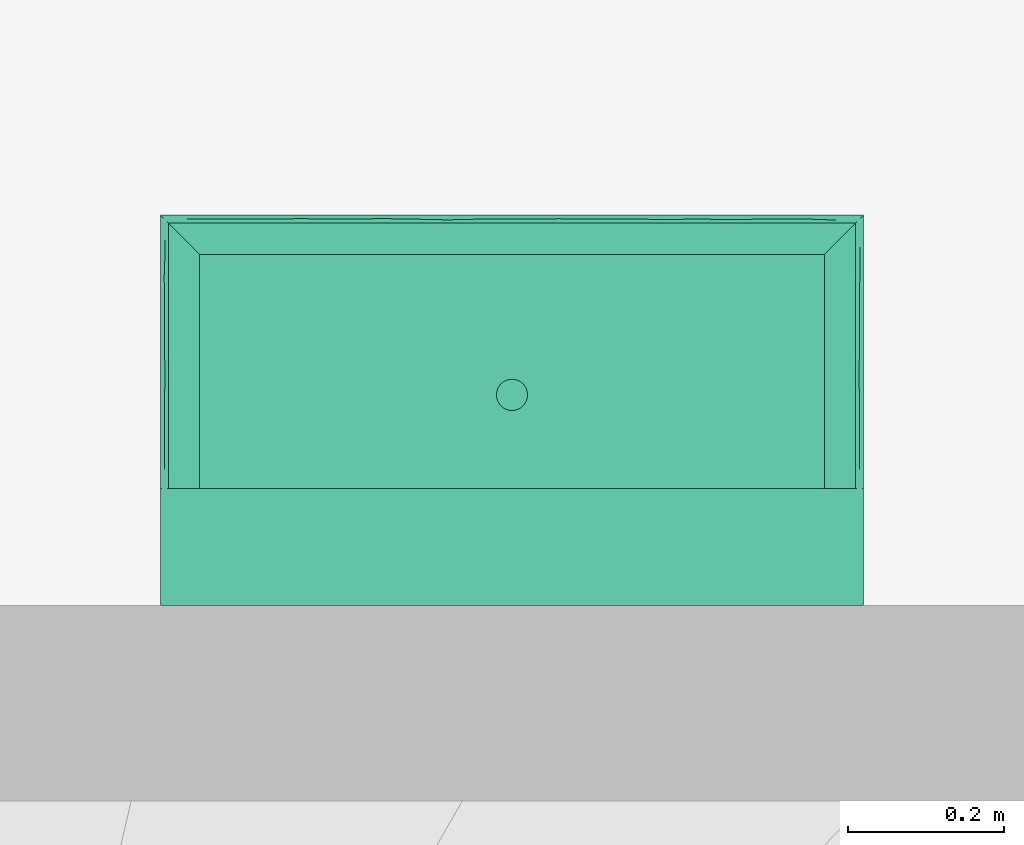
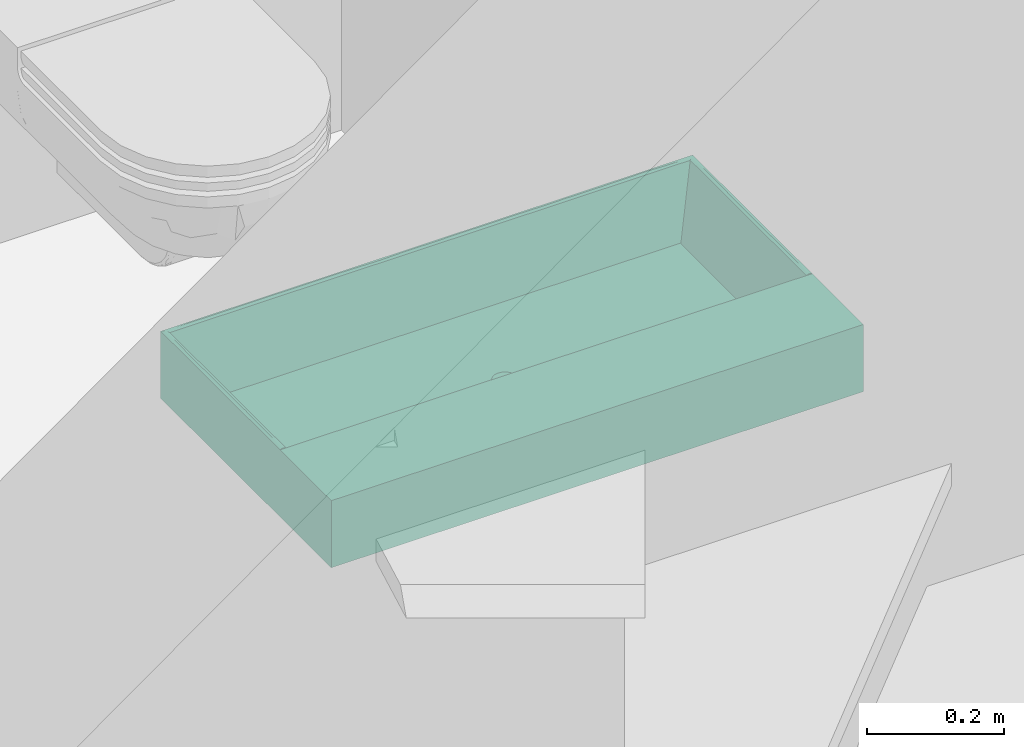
# One storey, part 16 of 18: 1 flow terminal.
"""IFC2X3 building model written with IfcOpenShell, lengths in metres."""

from ifc_helpers import new_model, entity, si_unit, converted_unit, derived_unit, direction, frame, frame_2d, origin, place, context, subcontext, project, spatial, rectangle, circle, extrude, faceted_brep, source, transform, mapped, material, material_list, type_object, type_shapes, element, save


model = new_model("IFC2X3")

# Units and contexts
model_context = context("Model", 3, precision=1e-05, world=origin(), true_north=direction((6.123233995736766e-17, 1.0)))
body_context = subcontext(model_context, "Body", "Model", "MODEL_VIEW")
ifc_project = project(units=[si_unit("LENGTHUNIT", "METRE"), si_unit("AREAUNIT", "SQUARE_METRE"), si_unit("VOLUMEUNIT", "CUBIC_METRE"), si_unit("POWERUNIT", "WATT"), derived_unit("USERDEFINED", [(si_unit("MASSUNIT", "GRAM", prefix="KILO"), 1), (si_unit("TIMEUNIT", "SECOND"), -3)]), derived_unit("THERMALRESISTANCEUNIT", [(si_unit("MASSUNIT", "GRAM", prefix="KILO"), -1), (si_unit("TIMEUNIT", "SECOND"), 3), (si_unit("THERMODYNAMICTEMPERATUREUNIT", "KELVIN"), 1)]), derived_unit("USERDEFINED", [(si_unit("MASSUNIT", "GRAM", prefix="KILO"), 1), (si_unit("TIMEUNIT", "SECOND"), -2), (si_unit("THERMODYNAMICTEMPERATUREUNIT", "KELVIN"), -1)]), derived_unit("THERMALTRANSMITTANCEUNIT", [(si_unit("MASSUNIT", "GRAM", prefix="KILO"), 1), (si_unit("TIMEUNIT", "SECOND"), -3), (si_unit("THERMODYNAMICTEMPERATUREUNIT", "KELVIN"), -1)]), converted_unit("PLANEANGLEUNIT", "DEGREE", entity("IfcPlaneAngleMeasure", 0.017453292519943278), si_unit("PLANEANGLEUNIT", "RADIAN"), dimensions=[0, 0, 0, 0, 0, 0, 0]), derived_unit("MOMENTOFINERTIAUNIT", [(si_unit("LENGTHUNIT", "METRE"), 4)])], contexts=[model_context])

# Site, building, storey, space
site_placement = place(None, origin())
site = spatial("IfcSite", under=ifc_project, at=site_placement, Name="Default", CompositionType="ELEMENT")
building_placement = place(site_placement, origin())
building = spatial("IfcBuilding", under=site, at=building_placement, CompositionType="ELEMENT")
storey_placement = place(building_placement, frame((0.0, 0.0, 2.6)))
storey = spatial("IfcBuildingStorey", under=building, at=storey_placement, Name="Erdgeschoss", CompositionType="ELEMENT", Elevation=2.6)
space_placement = place(storey_placement, origin())
space = spatial("IfcSpace", under=storey, at=space_placement, Name="16", CompositionType="ELEMENT", InteriorOrExteriorSpace="INTERNAL")

# Flow terminal
ifc_material_1 = material(Name="Metall - Edelstahl satiniert")
ifc_material_2 = material(Name="Keramik - weiß 255_255_255")
ifc_material_list = material_list([ifc_material_1, ifc_material_2])
distribution_element_type = type_object("IfcDistributionElementType", Name="Waschbecken 08:900 x 500", material=ifc_material_list)
shared_shape = source(origin(), body_context, "Body", "SolidModel", [
    extrude(circle(Radius=0.02, at=frame_2d((0.0, -2.9609648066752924e-17), x_axis=(1.0, 0.0))), frame((0.12289206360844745, 0.029999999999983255, 0.009999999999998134)), (0.0, 0.0, 1.0), 0.005000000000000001),
    extrude(rectangle(XDim=0.8000000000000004, YDim=0.3000000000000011, at=frame_2d((2.7755575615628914e-17, 0.0), x_axis=(1.0, 0.0))), frame((0.12289206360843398, 0.0, 0.0), z_axis=(0.0, 0.0, 1.0), x_axis=(-1.0, 0.0, 0.0)), (0.0, 0.0, 1.0), 0.01),
    faceted_brep([(-0.3271079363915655, -0.19999999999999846, 0.0), (-0.3271079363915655, -0.19999999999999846, 0.12000000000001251), (-0.3271079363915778, -0.1478653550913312, 0.12000000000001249), (-0.3271079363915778, -0.0957307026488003, 0.1200000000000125), (-0.3271079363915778, -0.04359605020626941, 0.1200000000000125), (-0.3271079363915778, 0.008538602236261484, 0.12000000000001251), (-0.3271079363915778, 0.05320197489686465, 0.1200000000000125), (-0.32710793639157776, 0.09786534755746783, 0.1200000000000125), (-0.327107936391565, 0.1500000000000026, 0.12000000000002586), (-0.3271079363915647, 0.3000000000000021, 0.12000000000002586), (-0.3271079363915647, 0.3000000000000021, 0.0), (0.5728920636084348, 0.30000000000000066, 0.0), (0.5728920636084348, 0.30000000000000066, 0.12000000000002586), (0.5728920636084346, 0.15000000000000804, 0.1200000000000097), (0.5728920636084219, 0.0978653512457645, 0.1200000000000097), (0.5728920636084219, 0.053201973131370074, 0.1200000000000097), (0.5728920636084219, 0.008538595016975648, 0.1200000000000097), (0.572892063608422, -0.04359605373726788, 0.12000000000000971), (0.5728920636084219, -0.0957307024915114, 0.12000000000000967), (0.5728920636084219, -0.14786535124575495, 0.1200000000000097), (0.572892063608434, -0.19999999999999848, 0.12000000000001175), (0.572892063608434, -0.19999999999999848, 0.0), (-0.3171079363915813, 0.15000000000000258, 0.12000000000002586), (0.5628920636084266, 0.15000000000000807, 0.12000000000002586), (0.5228920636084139, 0.15000000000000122, 0.0), (0.13255132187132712, 0.15000000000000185, 0.092966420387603), (0.13289206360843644, 0.15000000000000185, 0.09037822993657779), (0.13255132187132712, 0.15000000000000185, 0.0877900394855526), (0.13155231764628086, 0.15000000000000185, 0.08537822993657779), (0.12996313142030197, 0.15000000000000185, 0.08330716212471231), (0.1278920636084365, 0.15000000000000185, 0.08171797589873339), (0.12548025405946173, 0.15000000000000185, 0.08071897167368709), (0.12289206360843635, 0.15000000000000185, 0.08037822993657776), (-0.27710793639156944, 0.15000000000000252, 0.0), (0.1315523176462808, 0.15000000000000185, 0.09537822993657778), (0.1299631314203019, 0.15000000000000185, 0.09744929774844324), (0.12789206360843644, 0.15000000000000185, 0.09903848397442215), (0.12548025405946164, 0.15000000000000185, 0.10003748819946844), (0.12289206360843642, 0.15000000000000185, 0.10037822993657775), (0.12030387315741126, 0.15000000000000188, 0.10003748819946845), (0.11789206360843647, 0.15000000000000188, 0.09903848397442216), (0.11582099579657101, 0.15000000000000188, 0.09744929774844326), (0.11423180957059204, 0.15000000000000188, 0.0953782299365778), (0.11323280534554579, 0.15000000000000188, 0.09296642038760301), (0.11289206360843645, 0.15000000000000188, 0.09037822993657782), (0.12030387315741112, 0.15000000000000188, 0.08071897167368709), (0.11789206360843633, 0.15000000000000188, 0.0817179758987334), (0.11582099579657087, 0.15000000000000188, 0.08330716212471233), (0.11423180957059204, 0.15000000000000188, 0.0853782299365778), (0.11323280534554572, 0.15000000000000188, 0.08779003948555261), (0.5228920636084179, -0.14999999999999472, 0.0), (-0.27710793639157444, -0.1499999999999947, 0.0), (-0.32104885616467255, 0.14999999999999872, 0.1214705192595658), (-0.3189904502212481, 0.14999999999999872, 0.1209709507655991), (-0.32522542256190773, 0.14999999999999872, 0.12097095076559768), (-0.32316701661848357, 0.14999999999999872, 0.12147051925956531), (0.5647745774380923, 0.15000000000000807, 0.12097095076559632), (0.5668329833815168, 0.15000000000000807, 0.12147051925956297), (0.5689511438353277, 0.15000000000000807, 0.12147051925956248), (0.571009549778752, 0.15000000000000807, 0.12097095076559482), (-0.3171079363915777, 0.09786534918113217, 0.12000000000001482), (-0.3171079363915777, 0.06499999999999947, 0.12000000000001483), (-0.3171079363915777, 0.022499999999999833, 0.12000000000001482), (-0.3171079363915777, -0.019999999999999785, 0.12000000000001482), (-0.3171079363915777, -0.0624999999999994, 0.12000000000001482), (-0.3171079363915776, -0.10499999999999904, 0.1200000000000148), (-0.3171079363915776, -0.13786534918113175, 0.12000000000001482), (-0.3171079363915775, -0.18999999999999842, 0.12000000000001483), (0.5207574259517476, -0.19999999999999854, 0.12000000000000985), (0.4686227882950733, -0.19999999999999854, 0.12000000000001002), (0.416488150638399, -0.19999999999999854, 0.12000000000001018), (0.364353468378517, -0.19999999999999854, 0.12000000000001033), (0.31221878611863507, -0.19999999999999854, 0.1200000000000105), (0.2600841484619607, -0.19999999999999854, 0.12000000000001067), (0.20794951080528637, -0.19999999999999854, 0.12000000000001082), (0.15581487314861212, -0.19999999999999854, 0.120000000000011), (0.12151683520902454, -0.19999999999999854, 0.12000000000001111), (0.08721879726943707, -0.19999999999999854, 0.12000000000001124), (0.05292080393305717, -0.19999999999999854, 0.12000000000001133), (0.018622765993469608, -0.19999999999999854, 0.12000000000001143), (-0.015675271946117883, -0.19999999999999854, 0.12000000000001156), (-0.04997326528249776, -0.19999999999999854, 0.12000000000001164), (-0.08427130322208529, -0.19999999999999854, 0.12000000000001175), (-0.11856934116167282, -0.19999999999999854, 0.12000000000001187), (-0.17070397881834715, -0.19999999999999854, 0.12000000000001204), (-0.2228386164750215, -0.19999999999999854, 0.12000000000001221), (-0.27497325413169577, -0.19999999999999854, 0.12000000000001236), (-0.2649732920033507, -0.18999999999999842, 0.12000000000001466), (-0.20710793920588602, -0.18999999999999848, 0.12000000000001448), (-0.15210793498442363, -0.18999999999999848, 0.1200000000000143), (-0.09710793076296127, -0.18999999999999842, 0.12000000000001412), (-0.04210792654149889, -0.18999999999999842, 0.12000000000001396), (0.012892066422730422, -0.18999999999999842, 0.12000000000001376), (0.06789205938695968, -0.18999999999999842, 0.1200000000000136), (0.12289206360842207, -0.18999999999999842, 0.12000000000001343), (0.17789206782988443, -0.18999999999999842, 0.12000000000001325), (0.2328920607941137, -0.18999999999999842, 0.12000000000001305), (0.2878920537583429, -0.18999999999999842, 0.12000000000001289), (0.3428920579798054, -0.18999999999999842, 0.12000000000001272), (0.39789206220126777, -0.18999999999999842, 0.12000000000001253), (0.45289206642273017, -0.18999999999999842, 0.12000000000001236), (0.5107574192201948, -0.18999999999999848, 0.12000000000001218), (0.5628920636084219, -0.18999999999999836, 0.12000000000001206), (0.5628920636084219, -0.13786534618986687, 0.12000000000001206), (0.5628920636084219, -0.10499999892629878, 0.12000000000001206), (0.5628920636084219, -0.06249999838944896, 0.12000000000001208), (0.5628920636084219, -0.019999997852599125, 0.12000000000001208), (0.5628920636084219, 0.022500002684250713, 0.12000000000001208), (0.5628920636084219, 0.06500000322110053, 0.12000000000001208), (0.5628920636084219, 0.09786535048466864, 0.12000000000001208), (-0.32243946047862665, -0.15836408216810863, 0.12152746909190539), (-0.3252254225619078, -0.19811748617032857, 0.12097095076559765), (-0.3231670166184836, -0.1960590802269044, 0.12147051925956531), (-0.3224711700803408, -0.12143267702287, 0.12152623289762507), (-0.3217902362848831, -0.03903605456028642, 0.1215279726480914), (-0.32173737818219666, 0.0012499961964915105, 0.12152593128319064), (-0.31899045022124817, -0.19188251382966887, 0.12097095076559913), (-0.32177659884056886, 0.04137552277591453, 0.12152747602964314), (-0.32210793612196, 0.11613239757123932, 0.12153363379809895), (-0.322107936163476, 0.08143267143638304, 0.12153363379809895), (0.567892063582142, 0.11613240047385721, 0.12153363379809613), (-0.32203543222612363, -0.08027424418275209, 0.1215333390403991), (-0.3210488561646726, -0.1939409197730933, 0.12147051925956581), (0.5314729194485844, -0.19536247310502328, 0.1215262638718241), (0.5710095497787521, -0.19811748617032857, 0.12097095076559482), (0.5689511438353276, -0.19605908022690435, 0.12147051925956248), (-0.24890595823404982, -0.19539184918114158, 0.12152502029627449), (-0.21003994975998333, -0.19514438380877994, 0.12153246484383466), (0.35123087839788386, -0.19509550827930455, 0.12153312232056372), (0.10436783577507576, -0.1949543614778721, 0.12153351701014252), (0.1666197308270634, -0.19499039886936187, 0.1215336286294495), (0.5668329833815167, -0.1939409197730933, 0.12147051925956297), (0.45582408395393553, -0.19514438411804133, 0.12153246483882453), (0.4946900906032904, -0.19539184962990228, 0.12152502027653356), (0.3904207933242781, -0.1955798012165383, 0.12151476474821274), (0.24625119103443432, -0.19501198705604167, 0.12153362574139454), (0.2861514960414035, -0.19562879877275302, 0.12151143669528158), (-0.014607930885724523, -0.19532369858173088, 0.12152775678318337), (-0.28436950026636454, -0.1940709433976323, 0.12148510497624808), (0.5647745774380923, -0.19188251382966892, 0.12097095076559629), (-0.17022608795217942, -0.19469488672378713, 0.12152841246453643), (0.02406225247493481, -0.19491145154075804, 0.12153319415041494), (-0.10882378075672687, -0.19496066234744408, 0.12153354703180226), (-0.0696079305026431, -0.19465519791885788, 0.12152696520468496), (0.06266848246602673, -0.19553500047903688, 0.1215175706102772), (0.20539206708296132, -0.19404913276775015, 0.12148279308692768), (0.5675215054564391, 0.00125000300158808, 0.12152593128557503), (0.567574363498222, -0.03903604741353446, 0.12152797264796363), (0.5675607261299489, 0.041375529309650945, 0.12152747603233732), (0.5669946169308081, -0.15713973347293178, 0.1214883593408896), (0.5678920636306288, 0.08143267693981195, 0.12153363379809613), (0.5682552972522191, -0.12143267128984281, 0.12152623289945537), (0.5678195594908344, -0.08027423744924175, 0.12153333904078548), (0.13255132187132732, 0.2577905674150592, 0.0877900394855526), (0.1328920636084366, 0.2577905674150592, 0.0903782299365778), (0.13255132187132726, 0.2577905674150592, 0.092966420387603), (0.13155231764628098, 0.2577905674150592, 0.09537822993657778), (0.12996313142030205, 0.2577905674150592, 0.09744929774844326), (0.12789206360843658, 0.2577905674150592, 0.09903848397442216), (0.12548025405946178, 0.2577905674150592, 0.10003748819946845), (0.12289206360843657, 0.2577905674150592, 0.10037822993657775), (0.12030387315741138, 0.2577905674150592, 0.10003748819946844), (0.11789206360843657, 0.2577905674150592, 0.09903848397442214), (0.11582099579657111, 0.2577905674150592, 0.0974492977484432), (0.1142318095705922, 0.2577905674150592, 0.09537822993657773), (0.11323280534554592, 0.2577905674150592, 0.09296642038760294), (0.11289206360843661, 0.2577905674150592, 0.09037822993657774), (0.11323280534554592, 0.2577905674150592, 0.08779003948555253), (0.11423180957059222, 0.2577905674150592, 0.08537822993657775), (0.11582099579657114, 0.2577905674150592, 0.08330716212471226), (0.11789206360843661, 0.2577905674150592, 0.08171797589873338), (0.1203038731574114, 0.2577905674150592, 0.08071897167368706), (0.12289206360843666, 0.2577905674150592, 0.08037822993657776), (0.12548025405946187, 0.2577905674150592, 0.08071897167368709), (0.12789206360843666, 0.2577905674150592, 0.08171797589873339), (0.12996313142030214, 0.2577905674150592, 0.08330716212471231), (0.13155231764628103, 0.2577905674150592, 0.0853782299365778)], [[[0, 1, 2, 3, 4, 5, 6, 7, 8, 9, 10]], [[11, 12, 13, 14, 15, 16, 17, 18, 19, 20, 21]], [[13, 12, 9, 8, 22, 23]], [[24, 23, 25]], [[24, 25, 26]], [[27, 24, 26]], [[24, 27, 28]], [[24, 28, 29]], [[29, 30, 24]], [[30, 31, 24]], [[31, 32, 24]], [[24, 32, 33]], [[25, 23, 34]], [[35, 34, 23]], [[36, 35, 23]], [[37, 36, 23]], [[23, 38, 37]], [[38, 23, 22]], [[39, 38, 22]], [[40, 39, 22]], [[22, 41, 40]], [[41, 22, 42]], [[43, 42, 22]], [[22, 33, 43]], [[44, 43, 33]], [[45, 33, 32]], [[45, 46, 33]], [[46, 47, 33]], [[48, 33, 47]], [[33, 48, 49]], [[49, 44, 33]], [[21, 50, 24]], [[50, 21, 51]], [[24, 11, 21]], [[0, 51, 21]], [[51, 0, 33]], [[10, 33, 0]], [[11, 24, 10]], [[33, 10, 24]], [[12, 11, 10, 9]], [[52, 53, 22, 8, 54, 55]], [[23, 56, 57, 58, 59, 13]], [[33, 22, 60, 61, 62, 63, 64, 65, 66, 67, 51]], [[0, 21, 20, 68, 69, 70, 71, 72, 73, 74, 75, 76, 77, 78, 79, 80, 81, 82, 83, 84, 85, 86, 1]], [[51, 67, 87, 88, 89, 90, 91, 92, 93, 94, 95, 96, 97, 98, 99, 100, 101, 102, 50]], [[50, 102, 103, 104, 105, 106, 107, 108, 109, 23, 24]], [[110, 111, 112]], [[110, 113, 2]], [[4, 114, 115]], [[116, 67, 66]], [[60, 22, 53]], [[54, 8, 7]], [[2, 1, 111]], [[117, 6, 5]], [[65, 113, 66]], [[110, 66, 113]], [[53, 118, 60]], [[115, 114, 63]], [[66, 110, 116]], [[119, 61, 60]], [[5, 115, 117]], [[119, 118, 7]], [[55, 118, 52]], [[120, 58, 57]], [[3, 2, 113]], [[118, 53, 52]], [[64, 121, 65]], [[112, 122, 110]], [[7, 118, 54]], [[115, 63, 62]], [[118, 55, 54]], [[60, 118, 119]], [[119, 7, 6]], [[119, 117, 61]], [[64, 114, 121]], [[115, 62, 117]], [[3, 113, 121]], [[4, 115, 5]], [[61, 117, 62]], [[6, 117, 119]], [[121, 4, 3]], [[64, 63, 114]], [[121, 114, 4]], [[65, 121, 113]], [[110, 2, 111]], [[110, 122, 116]], [[123, 124, 125]], [[88, 126, 127]], [[72, 71, 128]], [[111, 1, 86]], [[68, 20, 124]], [[129, 76, 130]], [[123, 125, 131]], [[126, 86, 85]], [[132, 69, 133]], [[128, 134, 99]], [[135, 73, 136]], [[92, 91, 137]], [[133, 69, 68]], [[116, 122, 138]], [[135, 74, 73]], [[139, 101, 123]], [[111, 138, 112]], [[67, 116, 138]], [[127, 84, 140]], [[141, 137, 79]], [[111, 86, 138]], [[128, 71, 134]], [[100, 132, 133]], [[142, 82, 143]], [[123, 133, 68]], [[139, 102, 101]], [[133, 123, 101]], [[87, 126, 88]], [[126, 138, 86]], [[90, 143, 91]], [[143, 137, 91]], [[137, 81, 80, 79]], [[77, 129, 144]], [[92, 137, 141]], [[100, 133, 101]], [[132, 100, 99]], [[134, 132, 99]], [[70, 134, 71]], [[123, 68, 124]], [[70, 69, 132]], [[123, 131, 139]], [[126, 85, 127]], [[138, 126, 87]], [[83, 142, 140]], [[140, 88, 127]], [[127, 85, 84]], [[138, 87, 67]], [[138, 122, 112]], [[143, 90, 142]], [[137, 143, 81]], [[90, 89, 142]], [[142, 89, 140]], [[132, 134, 70]], [[128, 99, 98]], [[136, 73, 72]], [[136, 98, 97]], [[128, 98, 136]], [[97, 135, 136]], [[128, 136, 72]], [[135, 97, 96]], [[74, 145, 130]], [[145, 96, 95]], [[145, 135, 96]], [[74, 130, 76, 75]], [[145, 95, 130]], [[74, 135, 145]], [[95, 94, 130]], [[94, 129, 130]], [[76, 129, 77]], [[94, 93, 129]], [[144, 129, 93]], [[141, 93, 92]], [[141, 78, 144]], [[78, 141, 79]], [[78, 77, 144]], [[93, 141, 144]], [[140, 84, 83]], [[88, 140, 89]], [[82, 142, 83]], [[82, 81, 143]], [[146, 106, 147]], [[146, 148, 107]], [[124, 19, 149]], [[109, 108, 150]], [[150, 120, 109]], [[151, 104, 103]], [[106, 146, 107]], [[124, 20, 19]], [[14, 13, 59]], [[19, 18, 151]], [[120, 59, 58]], [[17, 147, 152]], [[56, 23, 109]], [[109, 120, 56]], [[102, 139, 149]], [[139, 131, 149]], [[149, 125, 124]], [[152, 18, 17]], [[19, 151, 149]], [[149, 151, 103]], [[146, 147, 17]], [[108, 107, 148]], [[14, 59, 120]], [[120, 57, 56]], [[14, 120, 150]], [[15, 150, 148]], [[15, 14, 150]], [[151, 152, 104]], [[146, 17, 16]], [[148, 16, 15]], [[106, 105, 147]], [[147, 105, 152]], [[148, 146, 16]], [[108, 148, 150]], [[104, 152, 105]], [[18, 152, 151]], [[149, 103, 102]], [[149, 131, 125]], [[153, 154, 155, 156, 157, 158, 159, 160, 161, 162, 163, 164, 165, 166, 167, 168, 169, 170, 171, 172, 173, 174, 175, 176]], [[38, 160, 159, 37]], [[37, 159, 158, 36]], [[34, 35, 157, 156]], [[157, 35, 36, 158]], [[25, 34, 156, 155]], [[155, 154, 26, 25]], [[26, 154, 153, 27]], [[27, 153, 176, 28]], [[30, 29, 175, 174]], [[175, 29, 28, 176]], [[31, 30, 174, 173]], [[31, 173, 172, 32]], [[32, 172, 171, 45]], [[45, 171, 170, 46]], [[48, 47, 169, 168]], [[169, 47, 46, 170]], [[49, 48, 168, 167]], [[49, 167, 166, 44]], [[165, 43, 44, 166]], [[42, 43, 165, 164]], [[39, 40, 162, 161]], [[38, 39, 161, 160]], [[41, 42, 164, 163]], [[41, 163, 162, 40]]]),
])
type_shapes(distribution_element_type, [shared_shape])
flow_terminal_placement = place(space_placement, frame((37.6566469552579, 23.63227237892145, 0.8000000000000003), z_axis=(0.0, 0.0, 1.0), x_axis=(-1.0, 0.0, 0.0)))
element("IfcFlowTerminal", 1, at=flow_terminal_placement, inside=space, type_object=distribution_element_type, material=ifc_material_list, Name="Waschbecken 08:900 x 500", ObjectType="Waschbecken 08:900 x 500", context=body_context, shape_type="MappedRepresentation", body=[
    mapped(shared_shape, transform((0.0, 0.0, 0.0), scale=1.0)),
])

save(model, "model.ifc")
